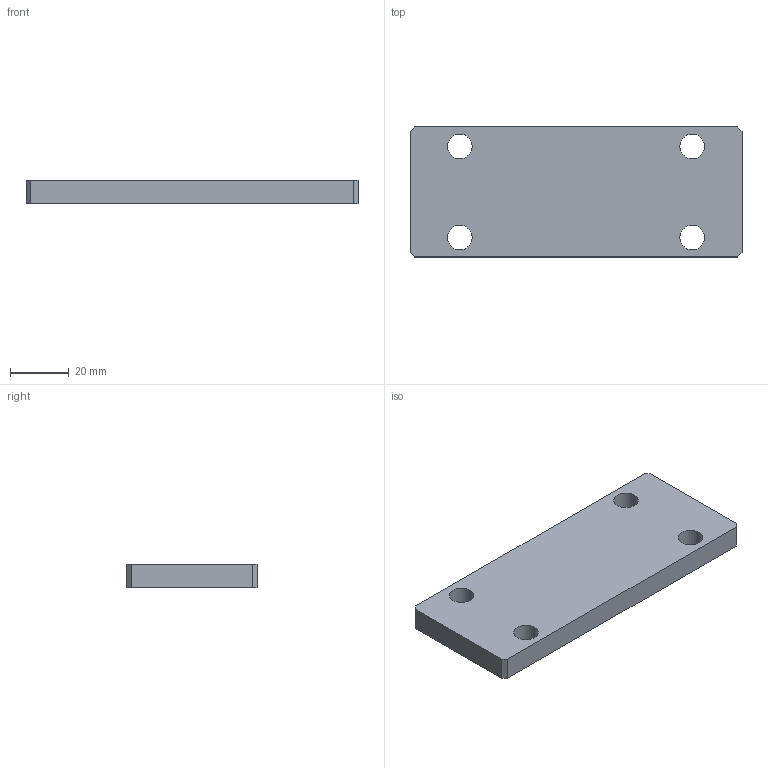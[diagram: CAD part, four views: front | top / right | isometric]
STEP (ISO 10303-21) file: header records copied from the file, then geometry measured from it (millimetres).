
FILE_DESCRIPTION(('Mechanical CAD reference from nasji.com'),'2;1');
FILE_NAME('NASJI.step','',(''),(''),'','NASJI distribution','');
FILE_SCHEMA(('AUTOMOTIVE_DESIGN { 1 0 10303 214 1 1 1 1 }'));
Length unit declared in the file: millimetre
Products named in the file (1): Open CASCADE STEP translator 7.8 142
Bounding box: 113.39 x 44.4 x 8 mm (x, y, z)
Volume: 38471.4 mm3; surface area: 12960.7 mm2
Topology: 1 solids, 1 shells, 14 faces, 36 edges, 24 vertices
Faces by surface type: plane 10, cylinder 4
Full cylindrical faces by diameter (mm): 8.4 x4
Entity records: 946 total; most frequent: CARTESIAN_POINT 195, DIRECTION 138, LINE 92, VECTOR 92, ORIENTED_EDGE 72, PCURVE 72, DEFINITIONAL_REPRESENTATION 72, EDGE_CURVE 36
